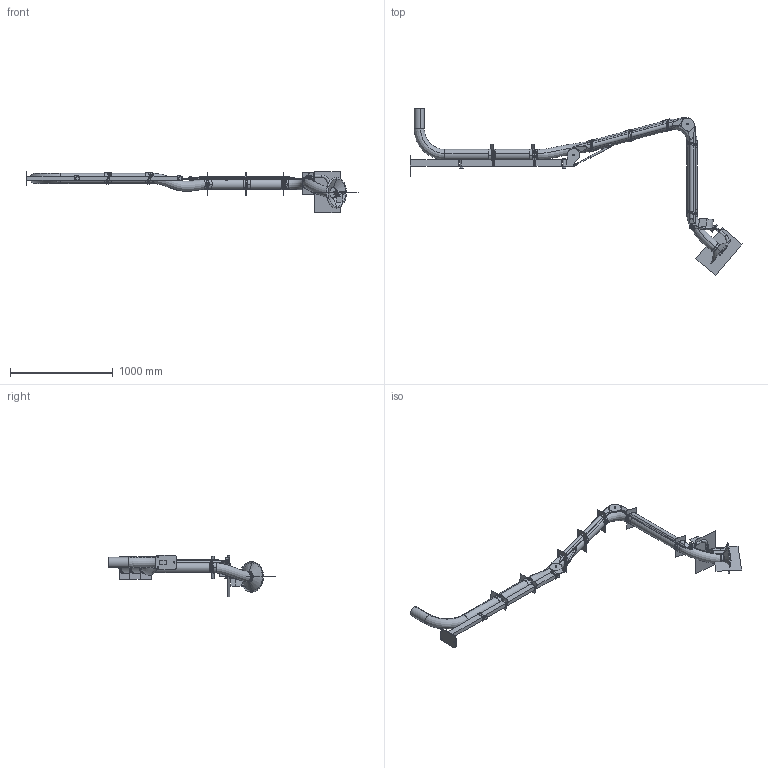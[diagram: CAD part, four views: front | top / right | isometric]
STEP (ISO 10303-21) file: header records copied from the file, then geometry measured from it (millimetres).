
FILE_DESCRIPTION((''),'2;1');
FILE_NAME('131020','2020-01-16T09:38:12',('Tomas Bellgran'),(''),'CREO PARAMETRIC BY PTC INC, 2018260','CREO PARAMETRIC BY PTC INC, 2018260','');
FILE_SCHEMA(('AUTOMOTIVE_DESIGN { 1 0 10303 214 1 1 1 1 }'));
Products named in the file (40): 131085_LIGHT; 131041; 131045_LIGHT; 131045; 144355; 131150; 139380; 131151; 131170; 144356; 131125_LIGHT; 131125; 131111_LIGHT; 131111; 131190_LIGHT; 131190; 130317; ROD_STAB_8-160-REF; 131095; 130322_AF25; 131145; 131131_AF0; 131134_AF0; 131139; 107520; 107550; 139635; 139656; 139614; 139630; 131136; 131137; 131138; 107520_AF4; 107520_AF5; SKRUVSATS_LITEN; SKRUVSATS_BIG; SKRUVSATS_LITEN-2; SKRUVSATS_BIGGEST; 131020
Assembly tree (60 placements, depth 3):
  131020
    131041
      131085_LIGHT
    131045
      131045_LIGHT
    144355  x4
    131150
    131170
      139380
      131151
    144356  x2
    131125
      131125_LIGHT
    131111
      131111_LIGHT
    131190
      131190_LIGHT
    130322_AF25
      130317
      ROD_STAB_8-160-REF
      131095  x2
    131145  x2
    131139  x5
      131131_AF0
      131134_AF0
    107520  x5
    107550
    139630
      139635  x3
      139656
      139614
    131138  x2
      131136
      131137
    107520_AF4
    107520_AF5
    SKRUVSATS_LITEN  x2
    SKRUVSATS_BIG  x2
    SKRUVSATS_LITEN-2  x2
    SKRUVSATS_BIGGEST  x2
Bounding box: 3229.14 x 1623.53 x 404.5 mm (x, y, z)
Volume: 40107415 mm3; surface area: 3494810 mm2
Topology: 55 solids, 103 shells, 1538 faces, 3576 edges, 2189 vertices
Faces by surface type: cylinder 485, plane 482, bspline 434, torus 90, cone 34, extrusion 13
Entity records: 90245 total; most frequent: CARTESIAN_POINT 42291, POLYLINE 5532, DIRECTION 4517, ORIENTED_EDGE 3878, PRESENTATION_STYLE_ASSIGNMENT 2800, STYLED_ITEM 2757, CURVE_STYLE 2072, EDGE_CURVE 2046
